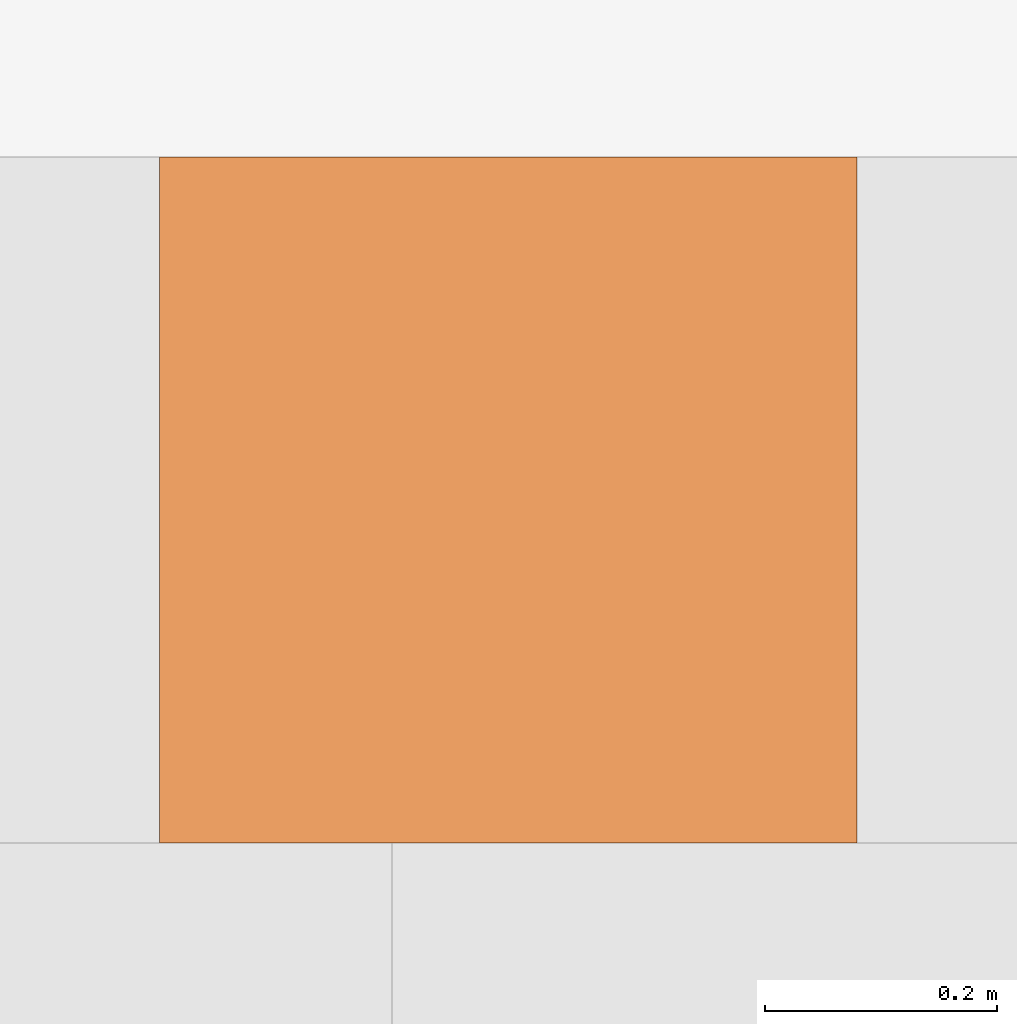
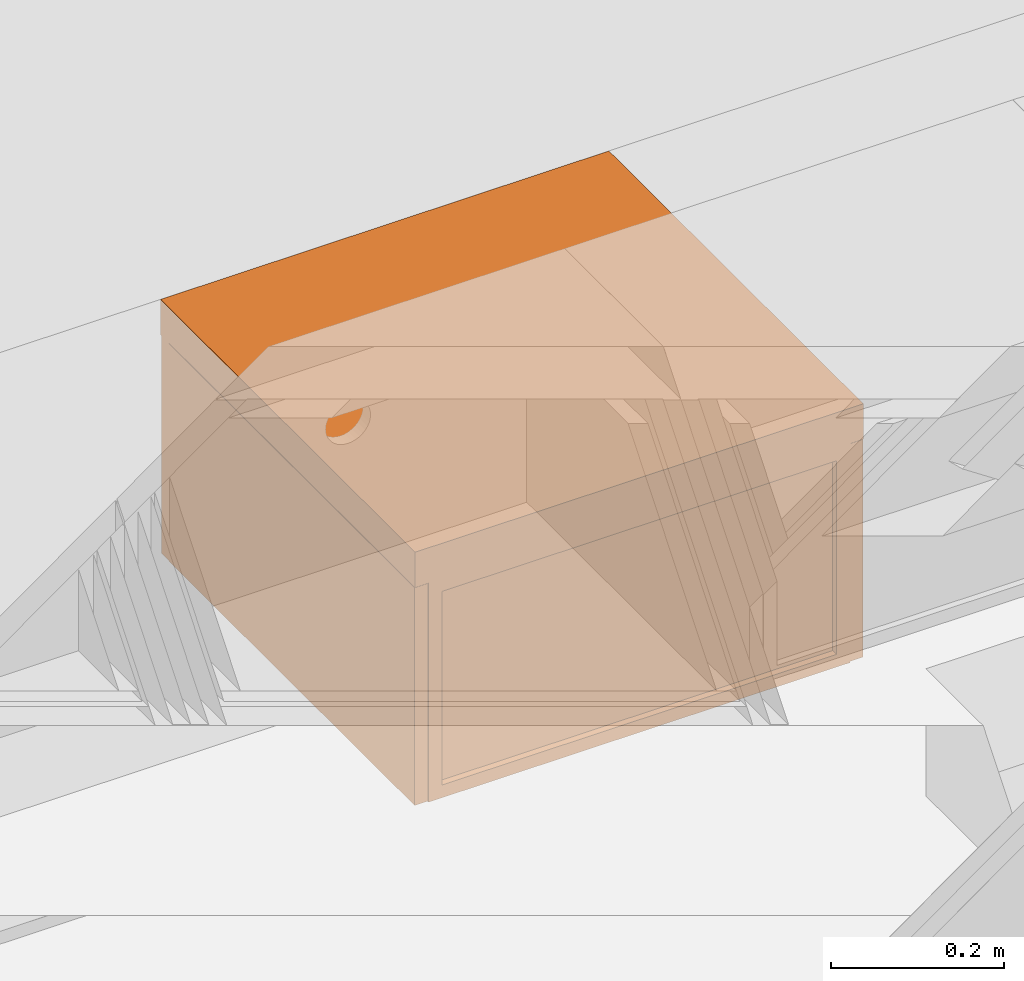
# One storey, part 142 of 165: 1 proxy.
"""IFC2X3 building model written with IfcOpenShell, lengths in millimetres."""

from ifc_helpers import new_model, entity, si_unit, converted_unit, derived_unit, money_unit, direction, frame, origin_with_axes, place, context, subcontext, project, spatial, faceted_brep, source, transform, mapped, type_object, type_shapes, element, save


model = new_model("IFC2X3")

# Units and contexts
model_context = context("Model", 3, precision=0.01, world=origin_with_axes(), true_north=direction((0.0, 1.0)))
body_context = subcontext(model_context, "Body", "Model", "MODEL_VIEW")
ifc_project = project(units=[si_unit("LENGTHUNIT", "METRE", prefix="MILLI"), si_unit("AREAUNIT", "SQUARE_METRE"), si_unit("VOLUMEUNIT", "CUBIC_METRE"), converted_unit("PLANEANGLEUNIT", "DEGREE", entity("IfcPlaneAngleMeasure", 0.0174532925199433), si_unit("PLANEANGLEUNIT", "RADIAN"), dimensions=[0, 0, 0, 0, 0, 0, 0]), money_unit("EUR"), converted_unit("TIMEUNIT", "Year", entity("IfcTimeMeasure", 31556926.0), si_unit("TIMEUNIT", "SECOND"), dimensions=[0, 0, 1, 0, 0, 0, 0]), si_unit("MASSUNIT", "GRAM", prefix="KILO"), si_unit("THERMODYNAMICTEMPERATUREUNIT", "DEGREE_CELSIUS"), si_unit("LUMINOUSINTENSITYUNIT", "LUMEN"), si_unit("ENERGYUNIT", "JOULE", prefix="MEGA"), derived_unit("THERMALCONDUCTANCEUNIT", [(si_unit("POWERUNIT", "WATT"), 1), (si_unit("LENGTHUNIT", "METRE"), -1), (si_unit("THERMODYNAMICTEMPERATUREUNIT", "KELVIN"), -1)]), derived_unit("SPECIFICHEATCAPACITYUNIT", [(si_unit("ENERGYUNIT", "JOULE"), 1), (si_unit("MASSUNIT", "GRAM", prefix="KILO"), -1), (si_unit("THERMODYNAMICTEMPERATUREUNIT", "KELVIN"), -1)]), derived_unit("MASSDENSITYUNIT", [(si_unit("MASSUNIT", "GRAM", prefix="KILO"), 1), (si_unit("VOLUMEUNIT", "CUBIC_METRE"), -1)])], contexts=[model_context])

# Site, building, storey
site_placement = place(None, origin_with_axes())
site = spatial("IfcSite", under=ifc_project, at=site_placement, Name="Site", CompositionType="ELEMENT")
building_placement = place(site_placement, origin_with_axes())
building = spatial("IfcBuilding", under=site, at=building_placement, Name="Naam gebouw", CompositionType="ELEMENT")
storey_placement = place(building_placement, origin_with_axes())
storey = spatial("IfcBuildingStorey", under=building, at=storey_placement, Name="Begane grond", CompositionType="ELEMENT", Elevation=0.0)

# Proxy
building_element_proxy_type = type_object("IfcBuildingElementProxyType", Name="Onderkast recht 26", PredefinedType="NOTDEFINED")
shared_shape = source(origin_with_axes(), body_context, "Body", "Brep", [
    faceted_brep([(0.0, -590.0, 310.0), (600.0, -590.0, 310.0), (600.0, -590.0, 360.0), (0.0, -590.0, 360.0), (0.0, 0.0, 310.0), (600.0, 0.0, 310.0), (600.0, 0.0, 360.0), (0.0, 0.0, 360.0)], [[[0, 1, 2, 3]], [[0, 4, 5, 1]], [[1, 5, 6, 2]], [[3, 2, 6, 7]], [[4, 0, 3, 7]], [[5, 4, 7, 6]]]),
    faceted_brep([(558.9999999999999, -572.0, 23.0), (40.99999999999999, -572.0, 23.0), (40.99999999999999, -18.00000000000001, 23.0), (558.9999999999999, -18.00000000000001, 23.0), (558.9999999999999, -572.0, 33.0), (40.99999999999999, -572.0, 33.0), (40.99999999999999, -18.00000000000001, 33.0), (558.9999999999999, -18.00000000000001, 33.0)], [[[0, 1, 2, 3]], [[1, 0, 4, 5]], [[2, 1, 5, 6]], [[3, 2, 6, 7]], [[0, 3, 7, 4]], [[5, 4, 7, 6]]]),
    faceted_brep([(61.0, -572.0, 33.0), (40.99999999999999, -572.0, 33.0), (40.99999999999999, -18.00000000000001, 33.0), (61.0, -18.00000000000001, 33.0), (61.0, -572.0, 286.9999999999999), (40.99999999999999, -572.0, 286.9999999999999), (40.99999999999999, -18.00000000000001, 286.9999999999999), (61.0, -18.00000000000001, 286.9999999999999)], [[[0, 1, 2, 3]], [[1, 0, 4, 5]], [[2, 1, 5, 6]], [[3, 2, 6, 7]], [[0, 3, 7, 4]], [[5, 4, 7, 6]]]),
    faceted_brep([(558.9999999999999, -572.0, 33.0), (538.9999999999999, -572.0, 33.0), (538.9999999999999, -18.00000000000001, 33.0), (558.9999999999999, -18.00000000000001, 33.0), (558.9999999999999, -572.0, 286.9999999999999), (538.9999999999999, -572.0, 286.9999999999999), (538.9999999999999, -18.00000000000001, 286.9999999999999), (558.9999999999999, -18.00000000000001, 286.9999999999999)], [[[0, 1, 2, 3]], [[1, 0, 4, 5]], [[2, 1, 5, 6]], [[3, 2, 6, 7]], [[0, 3, 7, 4]], [[5, 4, 7, 6]]]),
    faceted_brep([(538.9999999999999, -33.00000000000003, 33.0), (61.0, -33.00000000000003, 33.0), (61.0, -23.00000000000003, 33.0), (538.9999999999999, -23.00000000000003, 33.0), (538.9999999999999, -33.00000000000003, 286.9999999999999), (61.0, -33.00000000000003, 286.9999999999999), (61.0, -23.00000000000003, 286.9999999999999), (538.9999999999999, -23.00000000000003, 286.9999999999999)], [[[0, 1, 2, 3]], [[1, 0, 4, 5]], [[2, 1, 5, 6]], [[3, 2, 6, 7]], [[0, 3, 7, 4]], [[5, 4, 7, 6]]]),
    faceted_brep([(599.0, -590.0, 1.000000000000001), (599.0, -590.0, 309.0), (1.000000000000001, -590.0, 309.0), (1.000000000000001, -590.0, 1.000000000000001), (328.190778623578, -590.0, 240.26060429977), (329.5442325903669, -590.0, 235.2094453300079), (330.0000000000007, -590.0, 230.0), (329.5442325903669, -590.0, 224.7905546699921), (328.190778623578, -590.0, 219.7393957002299), (325.9807621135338, -590.0, 215.0), (322.9813332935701, -590.0, 210.7163717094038), (319.2836282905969, -590.0, 207.0186667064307), (315.0000000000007, -590.0, 204.0192378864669), (310.2606042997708, -590.0, 201.8092213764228), (305.2094453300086, -590.0, 200.4557674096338), (300.0000000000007, -590.0, 200.0), (294.7905546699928, -590.0, 200.4557674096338), (289.7393957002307, -590.0, 201.8092213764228), (285.0000000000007, -590.0, 204.0192378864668), (280.7163717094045, -590.0, 207.0186667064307), (277.0186667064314, -590.0, 210.7163717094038), (274.0192378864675, -590.0, 215.0), (271.8092213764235, -590.0, 219.7393957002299), (270.4557674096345, -590.0, 224.7905546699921), (270.0000000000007, -590.0, 230.0), (270.4557674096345, -590.0, 235.2094453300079), (271.8092213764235, -590.0, 240.2606042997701), (274.0192378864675, -590.0, 245.0), (277.0186667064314, -590.0, 249.2836282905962), (280.7163717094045, -590.0, 252.9813332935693), (285.0000000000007, -590.0, 255.9807621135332), (289.7393957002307, -590.0, 258.1907786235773), (294.7905546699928, -590.0, 259.5442325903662), (300.0000000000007, -590.0, 260.0), (305.2094453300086, -590.0, 259.5442325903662), (310.2606042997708, -590.0, 258.1907786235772), (315.0000000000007, -590.0, 255.9807621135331), (319.2836282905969, -590.0, 252.9813332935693), (322.9813332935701, -590.0, 249.2836282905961), (325.9807621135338, -590.0, 244.9999999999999), (599.0, -572.0, 309.0), (599.0, -572.0, 1.000000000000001), (1.000000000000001, -572.0, 309.0), (1.000000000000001, -572.0, 1.000000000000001), (328.190778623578, -572.0, 240.26060429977), (329.5442325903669, -572.0, 235.2094453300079), (330.0000000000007, -572.0, 230.0), (329.5442325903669, -572.0, 224.7905546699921), (328.190778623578, -572.0, 219.7393957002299), (325.9807621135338, -572.0, 215.0), (322.9813332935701, -572.0, 210.7163717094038), (319.2836282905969, -572.0, 207.0186667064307), (315.0000000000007, -572.0, 204.0192378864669), (310.2606042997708, -572.0, 201.8092213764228), (305.2094453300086, -572.0, 200.4557674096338), (300.0000000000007, -572.0, 200.0), (294.7905546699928, -572.0, 200.4557674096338), (289.7393957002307, -572.0, 201.8092213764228), (285.0000000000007, -572.0, 204.0192378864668), (280.7163717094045, -572.0, 207.0186667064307), (277.0186667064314, -572.0, 210.7163717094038), (274.0192378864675, -572.0, 215.0), (271.8092213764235, -572.0, 219.7393957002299), (270.4557674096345, -572.0, 224.7905546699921), (270.0000000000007, -572.0, 230.0), (270.4557674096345, -572.0, 235.2094453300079), (271.8092213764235, -572.0, 240.2606042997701), (274.0192378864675, -572.0, 245.0), (277.0186667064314, -572.0, 249.2836282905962), (280.7163717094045, -572.0, 252.9813332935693), (285.0000000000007, -572.0, 255.9807621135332), (289.7393957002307, -572.0, 258.1907786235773), (294.7905546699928, -572.0, 259.5442325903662), (300.0000000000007, -572.0, 260.0), (305.2094453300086, -572.0, 259.5442325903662), (310.2606042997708, -572.0, 258.1907786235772), (315.0000000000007, -572.0, 255.9807621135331), (319.2836282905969, -572.0, 252.9813332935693), (322.9813332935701, -572.0, 249.2836282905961), (325.9807621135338, -572.0, 244.9999999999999)], [[[0, 1, 2, 3], [4, 5, 6, 7, 8, 9, 10, 11, 12, 13, 14, 15, 16, 17, 18, 19, 20, 21, 22, 23, 24, 25, 26, 27, 28, 29, 30, 31, 32, 33, 34, 35, 36, 37, 38, 39]], [[40, 1, 0, 41]], [[42, 2, 1, 40]], [[43, 3, 2, 42]], [[41, 0, 3, 43]], [[44, 45, 5, 4]], [[45, 46, 6, 5]], [[46, 47, 7, 6]], [[47, 48, 8, 7]], [[48, 49, 9, 8]], [[49, 50, 10, 9]], [[50, 51, 11, 10]], [[51, 52, 12, 11]], [[52, 53, 13, 12]], [[53, 54, 14, 13]], [[54, 55, 15, 14]], [[55, 56, 16, 15]], [[56, 57, 17, 16]], [[57, 58, 18, 17]], [[58, 59, 19, 18]], [[59, 60, 20, 19]], [[60, 61, 21, 20]], [[61, 62, 22, 21]], [[62, 63, 23, 22]], [[63, 64, 24, 23]], [[64, 65, 25, 24]], [[65, 66, 26, 25]], [[66, 67, 27, 26]], [[67, 68, 28, 27]], [[68, 69, 29, 28]], [[69, 70, 30, 29]], [[70, 71, 31, 30]], [[71, 72, 32, 31]], [[72, 73, 33, 32]], [[73, 74, 34, 33]], [[74, 75, 35, 34]], [[75, 76, 36, 35]], [[76, 77, 37, 36]], [[77, 78, 38, 37]], [[78, 79, 39, 38]], [[79, 44, 4, 39]], [[42, 40, 41, 43], [48, 47, 46, 45, 44, 79, 78, 77, 76, 75, 74, 73, 72, 71, 70, 69, 68, 67, 66, 65, 64, 63, 62, 61, 60, 59, 58, 57, 56, 55, 54, 53, 52, 51, 50, 49]]]),
    faceted_brep([(18.0, -1.0, 1.0), (18.0, -571.0, 1.0), (0.0, -571.0, 1.000000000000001), (0.0, -1.0, 1.000000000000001), (18.00000000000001, -1.0, 309.0), (18.00000000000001, -571.0, 309.0), (0.0, -571.0, 309.0), (0.0, -1.0, 309.0)], [[[0, 1, 2, 3]], [[0, 4, 5, 1]], [[1, 5, 6, 2]], [[3, 2, 6, 7]], [[4, 0, 3, 7]], [[5, 4, 7, 6]]]),
    faceted_brep([(582.0, -571.0, 1.0), (582.0, -1.000000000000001, 1.0), (600.0, -1.000000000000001, 1.000000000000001), (600.0, -571.0, 1.000000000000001), (582.0, -571.0, 309.0), (582.0, -1.000000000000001, 309.0), (600.0, -1.000000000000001, 309.0), (600.0, -571.0, 309.0)], [[[0, 1, 2, 3]], [[0, 4, 5, 1]], [[1, 5, 6, 2]], [[3, 2, 6, 7]], [[4, 0, 3, 7]], [[5, 4, 7, 6]]]),
    faceted_brep([(36.0, -572.0, 0.0), (564.0, -572.0, 0.0), (564.0, -572.0, 18.0), (36.0, -572.0, 18.0), (36.0, 0.0, 0.0), (564.0, 0.0, 0.0), (564.0, 0.0, 18.0), (36.0, 0.0, 18.0)], [[[0, 1, 2, 3]], [[0, 4, 5, 1]], [[1, 5, 6, 2]], [[3, 2, 6, 7]], [[4, 0, 3, 7]], [[5, 4, 7, 6]]]),
    faceted_brep([(36.0, -572.0, 292.0), (36.0, -512.0, 292.0), (564.0, -512.0, 292.0), (564.0, -572.0, 292.0), (36.0, -572.0, 310.0), (36.0, -512.0, 310.0), (564.0, -512.0, 310.0), (564.0, -572.0, 310.0)], [[[0, 1, 2, 3]], [[0, 4, 5, 1]], [[1, 5, 6, 2]], [[3, 2, 6, 7]], [[4, 0, 3, 7]], [[5, 4, 7, 6]]]),
    faceted_brep([(564.0, 0.0, 292.0), (564.0, -60.0, 292.0), (36.0, -60.0, 292.0), (36.0, 0.0, 292.0), (564.0, 0.0, 310.0), (564.0, -60.0, 310.0), (36.0, -60.0, 310.0), (36.0, 0.0, 310.0)], [[[0, 1, 2, 3]], [[0, 4, 5, 1]], [[1, 5, 6, 2]], [[3, 2, 6, 7]], [[4, 0, 3, 7]], [[5, 4, 7, 6]]]),
    faceted_brep([(18.0, 0.0, 0.0), (18.0, -572.0, 0.0), (18.0, -572.0, 310.0), (18.0, 0.0, 310.0), (36.0, 0.0, 0.0), (36.0, -572.0, 0.0), (36.0, -572.0, 310.0), (36.0, 0.0, 310.0)], [[[0, 1, 2, 3]], [[0, 4, 5, 1]], [[1, 5, 6, 2]], [[3, 2, 6, 7]], [[4, 0, 3, 7]], [[5, 4, 7, 6]]]),
    faceted_brep([(582.0, -572.0, 0.0), (582.0, 0.0, 0.0), (582.0, 0.0, 310.0), (582.0, -572.0, 310.0), (564.0, -572.0, 0.0), (564.0, 0.0, 0.0), (564.0, 0.0, 310.0), (564.0, -572.0, 310.0)], [[[0, 1, 2, 3]], [[0, 4, 5, 1]], [[1, 5, 6, 2]], [[3, 2, 6, 7]], [[4, 0, 3, 7]], [[5, 4, 7, 6]]]),
    faceted_brep([(564.0, -9.0, 18.0), (36.00000000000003, -9.0, 18.0), (36.00000000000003, -9.0, 292.0000000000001), (564.0, -9.0, 292.0000000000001), (564.0, -18.0, 18.0), (36.00000000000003, -18.0, 18.0), (36.00000000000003, -18.0, 292.0000000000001), (564.0, -18.0, 292.0000000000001)], [[[0, 1, 2, 3]], [[0, 4, 5, 1]], [[1, 5, 6, 2]], [[3, 2, 6, 7]], [[4, 0, 3, 7]], [[5, 4, 7, 6]]]),
])
type_shapes(building_element_proxy_type, [shared_shape])
proxy_placement = place(storey_placement, frame((17600.00001687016, 6430.000292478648, 0.0), z_axis=(0.0, 0.0, 1.0), x_axis=(-1.0, 0.0, 0.0)))
element("IfcBuildingElementProxy", 1, at=proxy_placement, inside=storey, type_object=building_element_proxy_type, Name="_Leeg", context=body_context, shape_type="MappedRepresentation", body=[
    mapped(shared_shape, transform((0.0, 0.0, 0.0))),
])

save(model, "model.ifc")
